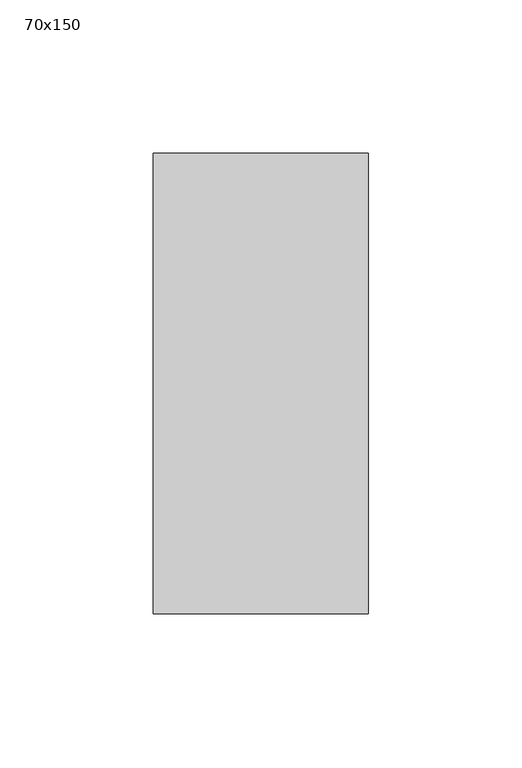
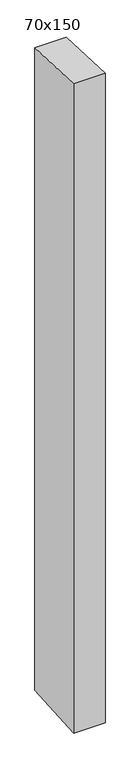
"""IFC4 building model written with IfcOpenShell, lengths in millimetres: member geometry, 長方形のマリオン : 70x150."""

import ifcopenshell
import ifcopenshell.guid

model = None  # the IFC model being written
_history = None  # IfcOwnerHistory: only IFC2X3 demands one
_inside = {}  # id of a spatial element -> (the spatial element, [elements in it])
_under = {}  # id of a project, library or spatial element -> (it, [spatial elements below it])
_declared = {}  # id of a project -> (the project, [libraries it declares])
_typed = {}  # id of a type object -> (the type object, [elements of that type])
_made_of = {}  # id of a material, layer set ... -> (it, [elements and type objects made of it])


def new_model(schema):
    """Start an empty IFC model of exactly this schema.

    Asked for "IFC4X3", IfcOpenShell would pick the latest addendum, in which some entities
    have other attributes; the version numbers below select the first issue.
    IFC2X3 requires an IfcOwnerHistory on every rooted entity: one is made here for all.
    """
    global model, _history
    if schema == "IFC4X3":
        model = ifcopenshell.file(schema_version=(4, 3, 0, 0))
    else:
        model = ifcopenshell.file(schema=schema)
    _inside.clear()
    _under.clear()
    _declared.clear()
    _typed.clear()
    _made_of.clear()
    _history = None
    if model.schema == "IFC2X3":
        org = make("IfcOrganization", Name="unknown")
        user = make(
            "IfcPersonAndOrganization",
            ThePerson=make("IfcPerson", FamilyName="unknown"),
            TheOrganization=org,
        )
        app = make(
            "IfcApplication",
            ApplicationDeveloper=org,
            Version="unknown",
            ApplicationFullName="unknown",
            ApplicationIdentifier="unknown",
        )
        _history = make(
            "IfcOwnerHistory",
            OwningUser=user,
            OwningApplication=app,
            ChangeAction="ADDED",
            CreationDate=0,
        )
    return model


def make(cls, **values):
    """One entity of the class cls with the attributes given. An attribute that is None is left unset."""
    return model.create_entity(
        cls, **{name: value for name, value in values.items() if value is not None}
    )


def rooted(cls, **values):
    """An entity with a GlobalId (a new one), such as an element, a storey or a relation."""
    return make(cls, GlobalId=ifcopenshell.guid.new(), OwnerHistory=_history, **values)


def si_unit(unit_type, name, prefix=None):
    """IfcSIUnit, for example si_unit("LENGTHUNIT", "METRE", prefix="MILLI")."""
    return make("IfcSIUnit", UnitType=unit_type, Prefix=prefix, Name=name)


def assignment(units):
    """IfcUnitAssignment: the units of a project."""
    return None if units is None else make("IfcUnitAssignment", Units=units)


def point(xyz):
    """IfcCartesianPoint."""
    return None if xyz is None else make("IfcCartesianPoint", Coordinates=xyz)


def direction(xyz):
    """IfcDirection."""
    return None if xyz is None else make("IfcDirection", DirectionRatios=xyz)


def frame(location, z_axis=None, x_axis=None):
    """IfcAxis2Placement3D, a coordinate frame: its origin and axes. An axis left out is left unset."""
    return make(
        "IfcAxis2Placement3D",
        Location=point(location),
        Axis=direction(z_axis),
        RefDirection=direction(x_axis),
    )


def origin():
    """The frame at (0, 0, 0) with its axes left unset."""
    return frame((0.0, 0.0, 0.0))


def place(relative_to, where):
    """IfcLocalPlacement: puts the frame where relative to a parent placement (None: the world)."""
    return make(
        "IfcLocalPlacement", PlacementRelTo=relative_to, RelativePlacement=where
    )


def context(
    kind, dimensions, precision=None, world=None, true_north=None, identifier=None
):
    """IfcGeometricRepresentationContext, for example the 3D "Model" context."""
    return make(
        "IfcGeometricRepresentationContext",
        ContextIdentifier=identifier,
        ContextType=kind,
        CoordinateSpaceDimension=dimensions,
        Precision=precision,
        WorldCoordinateSystem=world,
        TrueNorth=true_north,
    )


def project(units=None, contexts=None):
    """IfcProject with its units and contexts."""
    return rooted(
        "IfcProject",
        Name="project",
        RepresentationContexts=contexts,
        UnitsInContext=assignment(units),
    )


def spatial(cls, under=None, at=None, **own):
    """A site, building, storey or space (cls), placed at a placement, below another one or the project."""
    s = rooted(cls, ObjectPlacement=at, **own)
    if under is not None:
        _under.setdefault(under.id(), (under, []))[1].append(s)
    return s


def polyline(points):
    """IfcPolyline through the points."""
    return make("IfcPolyline", Points=[point(p) for p in points])


def outline(outer, holes=None, kind="AREA"):
    """IfcArbitraryClosedProfileDef: a profile drawn as a closed curve; with holes, ...WithVoids."""
    if holes is None:
        return make("IfcArbitraryClosedProfileDef", ProfileType=kind, OuterCurve=outer)
    return make(
        "IfcArbitraryProfileDefWithVoids",
        ProfileType=kind,
        OuterCurve=outer,
        InnerCurves=holes,
    )


def extrude(swept, where, along, depth):
    """IfcExtrudedAreaSolid: the profile swept, set in the frame where, extruded along a direction by depth."""
    return make(
        "IfcExtrudedAreaSolid",
        SweptArea=swept,
        Position=where,
        ExtrudedDirection=direction(along),
        Depth=depth,
    )


def shape(context_of_items, identifier, shape_type, items):
    """IfcShapeRepresentation: the items that make up one representation, for example the "Body"."""
    return make(
        "IfcShapeRepresentation",
        ContextOfItems=context_of_items,
        RepresentationIdentifier=identifier,
        RepresentationType=shape_type,
        Items=items,
    )


def source(mapping_origin, context_of_items, identifier, shape_type, items):
    """IfcRepresentationMap: a shape defined once, which mapped items show again and again."""
    return make(
        "IfcRepresentationMap",
        MappingOrigin=mapping_origin,
        MappedRepresentation=shape(context_of_items, identifier, shape_type, items),
    )


def transform(
    local_origin,
    x_axis=None,
    y_axis=None,
    z_axis=None,
    scale=None,
    scale2=None,
    scale3=None,
    uniform=True,
):
    """IfcCartesianTransformationOperator3D, or its non-uniform kind. x_axis, y_axis, z_axis: its Axis1, 2, 3."""
    if uniform:
        return make(
            "IfcCartesianTransformationOperator3D",
            Axis1=direction(x_axis),
            Axis2=direction(y_axis),
            LocalOrigin=point(local_origin),
            Scale=scale,
            Axis3=direction(z_axis),
        )
    return make(
        "IfcCartesianTransformationOperator3DnonUniform",
        Axis1=direction(x_axis),
        Axis2=direction(y_axis),
        LocalOrigin=point(local_origin),
        Scale=scale,
        Axis3=direction(z_axis),
        Scale2=scale2,
        Scale3=scale3,
    )


def mapped(mapping_source, mapping_target):
    """IfcMappedItem: shows the shape of a source again, moved by a transform."""
    return make(
        "IfcMappedItem", MappingSource=mapping_source, MappingTarget=mapping_target
    )


def made_of(thing, what):
    """Note that an element or type object is made of a material, layer set ...; save() writes the relation."""
    if what is not None:
        _made_of.setdefault(what.id(), (what, []))[1].append(thing)
    return thing


def element(
    cls,
    number,
    at=None,
    inside=None,
    cuts=None,
    type_object=None,
    material=None,
    context=None,
    identifier="Body",
    shape_type=None,
    held_by="IfcProductDefinitionShape",
    body=None,
    shapes=None,
    **own,
):
    """One element of the class cls, such as IfcWall. Its Tag is "e" and its number.

    at: its placement. inside: the storey or other place that contains it. cuts: it is an
    opening in that element (IfcRelVoidsElement). A single representation is given by context,
    identifier, shape_type and body (its items); several are given by shapes. held_by: the class
    of the entity that holds the representations. save() writes the other relations.
    """
    e = rooted(cls, Tag="e%d" % number, ObjectPlacement=at, **own)
    if body is not None:
        shapes = [shape(context, identifier, shape_type, body)]
    if shapes is not None:
        e.Representation = make(held_by, Representations=shapes)
    if inside is not None:
        _inside.setdefault(inside.id(), (inside, []))[1].append(e)
    if cuts is not None:
        rooted(
            "IfcRelVoidsElement", RelatingBuildingElement=cuts, RelatedOpeningElement=e
        )
    if type_object is not None:
        _typed.setdefault(type_object.id(), (type_object, []))[1].append(e)
    return made_of(e, material)


def aggregate(whole, parts):
    """IfcRelAggregates: a whole, such as a stair, and the parts it consists of."""
    return rooted("IfcRelAggregates", RelatingObject=whole, RelatedObjects=parts)


def save(model, path):
    """Write the relations noted so far, then the file.

    IfcRelAggregates (storeys below a building ...), IfcRelContainedInSpatialStructure (elements
    in a storey), IfcRelDefinesByType, IfcRelAssociatesMaterial and IfcRelDeclares: one each for
    every whole, place, type object, material and project.
    """
    for whole, parts in _under.values():
        aggregate(whole, parts)
    for where, things in _inside.values():
        rooted(
            "IfcRelContainedInSpatialStructure",
            RelatedElements=things,
            RelatingStructure=where,
        )
    for kind, things in _typed.values():
        rooted("IfcRelDefinesByType", RelatedObjects=things, RelatingType=kind)
    for what, things in _made_of.values():
        rooted("IfcRelAssociatesMaterial", RelatedObjects=things, RelatingMaterial=what)
    for by, libraries in _declared.values():
        rooted("IfcRelDeclares", RelatingContext=by, RelatedDefinitions=libraries)
    model.write(path)


def member_70x150_03ec326a(model_context):
    return source(origin(), model_context, "Body", "SweptSolid", [
        extrude(outline(polyline([(-75.0, 2.8650935), (75.0, -2.8650935), (75.0, -1521.1203848), (-75.0, -1530.78709), (-75.0, 2.8650935)])), frame((-35.0, 0.0, 0.0), z_axis=(1.0, 0.0, 0.0), x_axis=(0.0, 1.0, 0.0)), (0.0, 0.0, 1.0), 70.0),
    ])


if __name__ == "__main__":
    model = new_model("IFC4")
    model_context = context("Model", 3, world=origin())
    ifc_project = project(units=[si_unit("LENGTHUNIT", "METRE", prefix="MILLI")], contexts=[model_context])
    site = spatial("IfcSite", under=ifc_project)
    building = spatial("IfcBuilding", under=site)
    placement = place(None, origin())
    member_70x150_shape = member_70x150_03ec326a(model_context)
    element("IfcMember", 1, ObjectType="長方形のマリオン : 70x150", at=placement, inside=building, context=model_context, shape_type="MappedRepresentation", body=[
        mapped(member_70x150_shape, transform((0.0, 0.0, 0.0), x_axis=(1.0, 0.0, 0.0), y_axis=(0.0, 1.0, 0.0), z_axis=(0.0, 0.0, 1.0))),
    ])
    save(model, "model.ifc")
